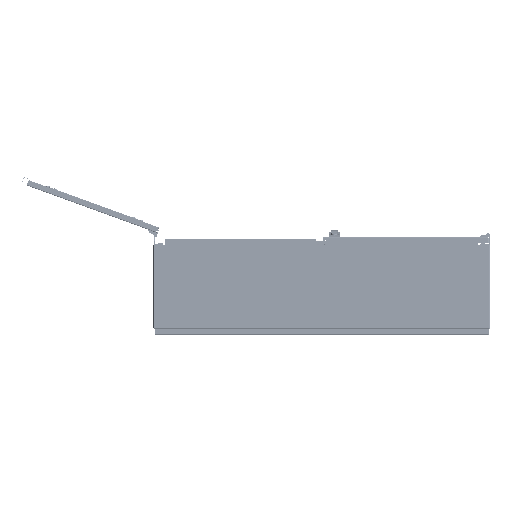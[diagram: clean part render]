
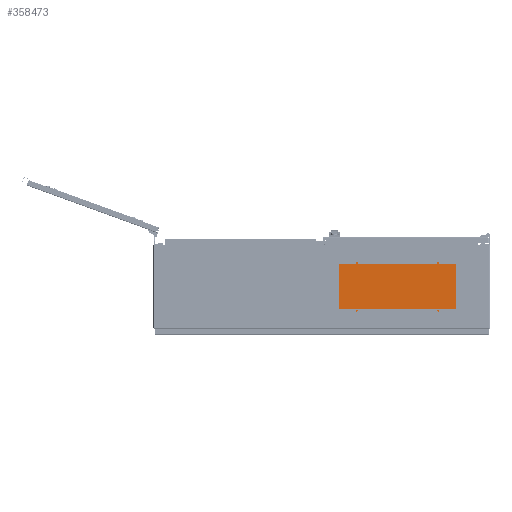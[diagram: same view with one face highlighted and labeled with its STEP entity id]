
A CAD part, front view. The second image highlights one B-rep face of the part: STEP entity #358473.
In plain terms, the highlighted planar face has unit normal (0, -1, 0).
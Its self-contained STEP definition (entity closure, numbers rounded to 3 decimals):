
#330338 = DIRECTION ( 'NONE',  ( 0., 0., -1. ) ) ;
#330340 = VECTOR ( 'NONE', #330338, 1000. ) ;
#330343 = CARTESIAN_POINT ( 'NONE',  ( 29.464, 2003., 0. ) ) ;
#330345 = LINE ( 'NONE', #330343, #330340 ) ;
#336727 = CARTESIAN_POINT ( 'NONE',  ( 125., 2003., 84.5 ) ) ;
#337360 = CARTESIAN_POINT ( 'NONE',  ( 125., 2003., 85.5 ) ) ;
#337498 = CARTESIAN_POINT ( 'NONE',  ( 125., 2003., -85.5 ) ) ;
#337500 = DIRECTION ( 'NONE',  ( 0., 0., -1. ) ) ;
#337503 = DIRECTION ( 'NONE',  ( 0., 1., 0. ) ) ;
#337505 = CARTESIAN_POINT ( 'NONE',  ( 125., 2003., -85. ) ) ;
#337506 = AXIS2_PLACEMENT_3D ( 'NONE', #337505, #337503, #337500 ) ;
#337508 = CIRCLE ( 'NONE', #337506, 0.5 ) ;
#337516 = CARTESIAN_POINT ( 'NONE',  ( 125., 2003., -84.5 ) ) ;
#337554 = DIRECTION ( 'NONE',  ( 0., 0., -1. ) ) ;
#337556 = DIRECTION ( 'NONE',  ( 0., -1., 0. ) ) ;
#337559 = CARTESIAN_POINT ( 'NONE',  ( 125., 2003., 85. ) ) ;
#337560 = AXIS2_PLACEMENT_3D ( 'NONE', #337559, #337556, #337554 ) ;
#337563 = CIRCLE ( 'NONE', #337560, 0.5 ) ;
#337701 = CARTESIAN_POINT ( 'NONE',  ( 415., 2003., 84.5 ) ) ;
#337705 = DIRECTION ( 'NONE',  ( 0., 0., -1. ) ) ;
#337708 = DIRECTION ( 'NONE',  ( 0., 1., 0. ) ) ;
#337712 = CARTESIAN_POINT ( 'NONE',  ( 415., 2003., 85. ) ) ;
#337714 = AXIS2_PLACEMENT_3D ( 'NONE', #337712, #337708, #337705 ) ;
#337717 = CIRCLE ( 'NONE', #337714, 0.5 ) ;
#337728 = CARTESIAN_POINT ( 'NONE',  ( 415., 2003., 85.5 ) ) ;
#337928 = CARTESIAN_POINT ( 'NONE',  ( 415., 2003., -85.5 ) ) ;
#337946 = DIRECTION ( 'NONE',  ( 0., 0., -1. ) ) ;
#337949 = DIRECTION ( 'NONE',  ( 0., 1., 0. ) ) ;
#337953 = CARTESIAN_POINT ( 'NONE',  ( 415., 2003., -85. ) ) ;
#337955 = AXIS2_PLACEMENT_3D ( 'NONE', #337953, #337949, #337946 ) ;
#337959 = CIRCLE ( 'NONE', #337955, 0.5 ) ;
#337983 = CARTESIAN_POINT ( 'NONE',  ( 415., 2003., -84.5 ) ) ;
#339575 = CARTESIAN_POINT ( 'NONE',  ( 509.343, 2003., -110.536 ) ) ;
#339577 = CARTESIAN_POINT ( 'NONE',  ( 510.536, 2003., -109.343 ) ) ;
#340095 = DIRECTION ( 'NONE',  ( 0.707, 0., 0.707 ) ) ;
#340098 = VECTOR ( 'NONE', #340095, 1000. ) ;
#340102 = CARTESIAN_POINT ( 'NONE',  ( 509.939, 2003., -109.939 ) ) ;
#340103 = LINE ( 'NONE', #340102, #340098 ) ;
#340136 = CARTESIAN_POINT ( 'NONE',  ( 30.657, 2003., -110.536 ) ) ;
#340138 = CARTESIAN_POINT ( 'NONE',  ( 29.464, 2003., -109.343 ) ) ;
#340140 = DIRECTION ( 'NONE',  ( 0.707, 0., -0.707 ) ) ;
#340142 = VECTOR ( 'NONE', #340140, 1000. ) ;
#340145 = CARTESIAN_POINT ( 'NONE',  ( 30.061, 2003., -109.939 ) ) ;
#340146 = LINE ( 'NONE', #340145, #340142 ) ;
#340188 = CARTESIAN_POINT ( 'NONE',  ( 509.343, 2003., 110.536 ) ) ;
#340190 = CARTESIAN_POINT ( 'NONE',  ( 510.536, 2003., 109.343 ) ) ;
#340193 = DIRECTION ( 'NONE',  ( -0.707, 0., 0.707 ) ) ;
#340195 = VECTOR ( 'NONE', #340193, 1000. ) ;
#340198 = CARTESIAN_POINT ( 'NONE',  ( 509.939, 2003., 109.939 ) ) ;
#340201 = LINE ( 'NONE', #340198, #340195 ) ;
#340611 = CARTESIAN_POINT ( 'NONE',  ( 30.657, 2003., 110.536 ) ) ;
#340616 = DIRECTION ( 'NONE',  ( -0.707, 0., -0.707 ) ) ;
#340618 = VECTOR ( 'NONE', #340616, 1000. ) ;
#340620 = CARTESIAN_POINT ( 'NONE',  ( 30.061, 2003., 109.939 ) ) ;
#340622 = LINE ( 'NONE', #340620, #340618 ) ;
#340628 = CARTESIAN_POINT ( 'NONE',  ( 29.464, 2003., 109.343 ) ) ;
#341035 = DIRECTION ( 'NONE',  ( -1., 0., 0. ) ) ;
#341036 = VECTOR ( 'NONE', #341035, 1000. ) ;
#341040 = CARTESIAN_POINT ( 'NONE',  ( 270., 2003., 110.536 ) ) ;
#341044 = LINE ( 'NONE', #341040, #341036 ) ;
#341144 = DIRECTION ( 'NONE',  ( 1., 0., 0. ) ) ;
#341147 = VECTOR ( 'NONE', #341144, 1000. ) ;
#341148 = CARTESIAN_POINT ( 'NONE',  ( 270., 2003., -110.536 ) ) ;
#341151 = LINE ( 'NONE', #341148, #341147 ) ;
#341234 = FACE_OUTER_BOUND ( 'NONE', #358639, .T. ) ;
#341235 = FACE_BOUND ( 'NONE', #358634, .T. ) ;
#341239 = FACE_BOUND ( 'NONE', #358630, .T. ) ;
#341241 = FACE_BOUND ( 'NONE', #358488, .T. ) ;
#341244 = FACE_BOUND ( 'NONE', #358478, .T. ) ;
#341261 = DIRECTION ( 'NONE',  ( 0., 0., 1. ) ) ;
#341262 = VECTOR ( 'NONE', #341261, 1000. ) ;
#341265 = CARTESIAN_POINT ( 'NONE',  ( 510.536, 2003., 0. ) ) ;
#341267 = LINE ( 'NONE', #341265, #341262 ) ;
#341326 = DIRECTION ( 'NONE',  ( 0., 0., -1. ) ) ;
#341328 = DIRECTION ( 'NONE',  ( 0., 1., 0. ) ) ;
#341330 = AXIS2_PLACEMENT_3D ( 'NONE', #341347, #341328, #341326 ) ;
#341332 = CIRCLE ( 'NONE', #341330, 0.5 ) ;
#341347 = CARTESIAN_POINT ( 'NONE',  ( 415., 2003., -85. ) ) ;
#341360 = DIRECTION ( 'NONE',  ( 1., 0., 0. ) ) ;
#341362 = DIRECTION ( 'NONE',  ( 0., -1., 0. ) ) ;
#341364 = CARTESIAN_POINT ( 'NONE',  ( 29.464, 2003., -110.536 ) ) ;
#341365 = AXIS2_PLACEMENT_3D ( 'NONE', #341364, #341362, #341360 ) ;
#341370 = PLANE ( 'NONE',  #341365 ) ;
#341422 = DIRECTION ( 'NONE',  ( 0., 0., -1. ) ) ;
#341426 = DIRECTION ( 'NONE',  ( 0., 1., 0. ) ) ;
#341429 = CARTESIAN_POINT ( 'NONE',  ( 125., 2003., -85. ) ) ;
#341431 = AXIS2_PLACEMENT_3D ( 'NONE', #341429, #341426, #341422 ) ;
#341433 = CIRCLE ( 'NONE', #341431, 0.5 ) ;
#341631 = DIRECTION ( 'NONE',  ( 0., 0., -1. ) ) ;
#341633 = DIRECTION ( 'NONE',  ( 0., 1., 0. ) ) ;
#341634 = CARTESIAN_POINT ( 'NONE',  ( 415., 2003., 85. ) ) ;
#341637 = AXIS2_PLACEMENT_3D ( 'NONE', #341634, #341633, #341631 ) ;
#341638 = CIRCLE ( 'NONE', #341637, 0.5 ) ;
#342070 = DIRECTION ( 'NONE',  ( 0., 0., -1. ) ) ;
#342072 = DIRECTION ( 'NONE',  ( 0., -1., 0. ) ) ;
#342074 = CARTESIAN_POINT ( 'NONE',  ( 125., 2003., 85. ) ) ;
#342075 = AXIS2_PLACEMENT_3D ( 'NONE', #342074, #342072, #342070 ) ;
#342077 = CIRCLE ( 'NONE', #342075, 0.5 ) ;
#355213 = EDGE_CURVE ( 'NONE', #358249, #358010, #330345, .T. ) ;
#357036 = VERTEX_POINT ( 'NONE', #336727 ) ;
#357234 = VERTEX_POINT ( 'NONE', #337360 ) ;
#357243 = EDGE_CURVE ( 'NONE', #357234, #357036, #337563, .T. ) ;
#357274 = VERTEX_POINT ( 'NONE', #337516 ) ;
#357280 = EDGE_CURVE ( 'NONE', #357284, #357274, #337508, .T. ) ;
#357284 = VERTEX_POINT ( 'NONE', #337498 ) ;
#357361 = VERTEX_POINT ( 'NONE', #337728 ) ;
#357366 = EDGE_CURVE ( 'NONE', #357369, #357361, #337717, .T. ) ;
#357369 = VERTEX_POINT ( 'NONE', #337701 ) ;
#357412 = VERTEX_POINT ( 'NONE', #337983 ) ;
#357423 = EDGE_CURVE ( 'NONE', #357428, #357412, #337959, .T. ) ;
#357428 = VERTEX_POINT ( 'NONE', #337928 ) ;
#357898 = VERTEX_POINT ( 'NONE', #339577 ) ;
#357905 = VERTEX_POINT ( 'NONE', #339575 ) ;
#358007 = EDGE_CURVE ( 'NONE', #358010, #358019, #340146, .T. ) ;
#358010 = VERTEX_POINT ( 'NONE', #340138 ) ;
#358019 = VERTEX_POINT ( 'NONE', #340136 ) ;
#358038 = EDGE_CURVE ( 'NONE', #357905, #357898, #340103, .T. ) ;
#358051 = EDGE_CURVE ( 'NONE', #358053, #358056, #340201, .T. ) ;
#358053 = VERTEX_POINT ( 'NONE', #340190 ) ;
#358056 = VERTEX_POINT ( 'NONE', #340188 ) ;
#358249 = VERTEX_POINT ( 'NONE', #340628 ) ;
#358257 = EDGE_CURVE ( 'NONE', #358261, #358249, #340622, .T. ) ;
#358261 = VERTEX_POINT ( 'NONE', #340611 ) ;
#358374 = EDGE_CURVE ( 'NONE', #358056, #358261, #341044, .T. ) ;
#358419 = EDGE_CURVE ( 'NONE', #358019, #357905, #341151, .T. ) ;
#358454 = EDGE_CURVE ( 'NONE', #357898, #358053, #341267, .T. ) ;
#358473 = ADVANCED_FACE ( 'NONE', ( #341244, #341241, #341239, #341235, #341234 ), #341370, .T. ) ;
#358478 = EDGE_LOOP ( 'NONE', ( #358479, #358481 ) ) ;
#358479 = ORIENTED_EDGE ( 'NONE', *, *, #357280, .T. ) ;
#358481 = ORIENTED_EDGE ( 'NONE', *, *, #358525, .T. ) ;
#358488 = EDGE_LOOP ( 'NONE', ( #358490, #358627 ) ) ;
#358490 = ORIENTED_EDGE ( 'NONE', *, *, #357423, .T. ) ;
#358500 = EDGE_CURVE ( 'NONE', #357412, #357428, #341332, .T. ) ;
#358525 = EDGE_CURVE ( 'NONE', #357274, #357284, #341433, .T. ) ;
#358546 = EDGE_CURVE ( 'NONE', #357361, #357369, #341638, .T. ) ;
#358595 = ORIENTED_EDGE ( 'NONE', *, *, #358419, .T. ) ;
#358603 = ORIENTED_EDGE ( 'NONE', *, *, #358038, .T. ) ;
#358606 = ORIENTED_EDGE ( 'NONE', *, *, #358454, .T. ) ;
#358609 = ORIENTED_EDGE ( 'NONE', *, *, #358051, .T. ) ;
#358611 = ORIENTED_EDGE ( 'NONE', *, *, #358374, .T. ) ;
#358627 = ORIENTED_EDGE ( 'NONE', *, *, #358500, .T. ) ;
#358630 = EDGE_LOOP ( 'NONE', ( #358631, #358633 ) ) ;
#358631 = ORIENTED_EDGE ( 'NONE', *, *, #357366, .T. ) ;
#358633 = ORIENTED_EDGE ( 'NONE', *, *, #358546, .T. ) ;
#358634 = EDGE_LOOP ( 'NONE', ( #358635, #358637 ) ) ;
#358635 = ORIENTED_EDGE ( 'NONE', *, *, #358636, .F. ) ;
#358636 = EDGE_CURVE ( 'NONE', #357036, #357234, #342077, .T. ) ;
#358637 = ORIENTED_EDGE ( 'NONE', *, *, #357243, .F. ) ;
#358639 = EDGE_LOOP ( 'NONE', ( #358640, #358643, #358648, #358595, #358603, #358606, #358609, #358611 ) ) ;
#358640 = ORIENTED_EDGE ( 'NONE', *, *, #358257, .T. ) ;
#358643 = ORIENTED_EDGE ( 'NONE', *, *, #355213, .T. ) ;
#358648 = ORIENTED_EDGE ( 'NONE', *, *, #358007, .T. ) ;
